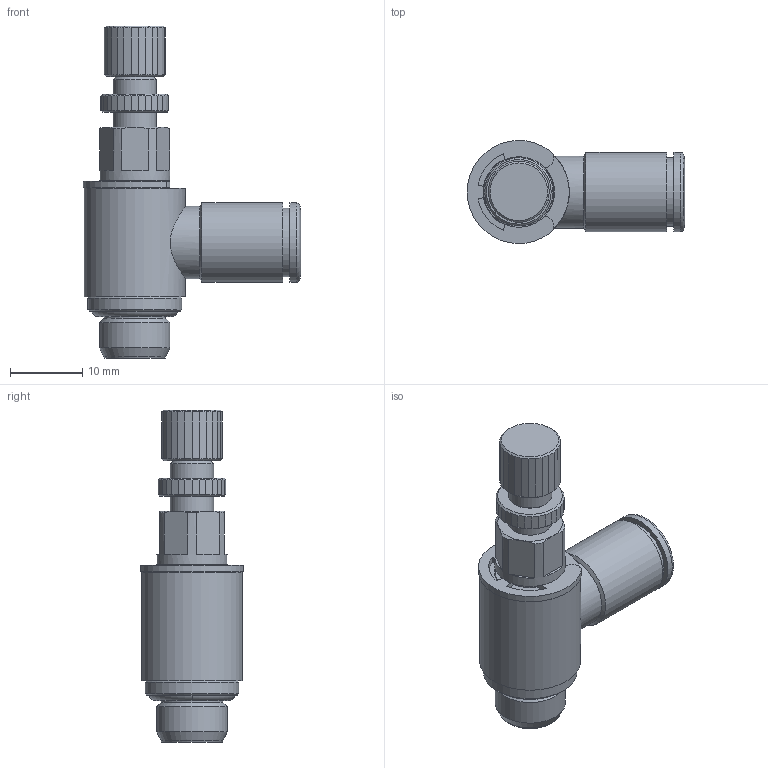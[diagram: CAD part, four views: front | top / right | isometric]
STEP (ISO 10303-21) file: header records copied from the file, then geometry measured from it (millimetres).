
FILE_DESCRIPTION(('Bauteilbeschreibung','HiCAD-Model','HiCAD-STEP-TRANSLATION','Bauteilbeschreibung'),'2;1');
FILE_NAME('B:/ABGLEICH/ZEICHNUNGEN/STEP FÜR INTERNET/STEP/IPSO 046/204605_IPSO_046_6_1-8_B.STP','2012-10-16T14:56:49+00:00',('Konstrukteur'),('Konstrukteur Firma GmbH'),' HiCAD neXt 2008, Step 3.1.1401.2J ','HiCAD neXt 2008','confidential');
FILE_SCHEMA(('AUTOMOTIVE_DESIGN { 1 2 10303 214 0 1 1 1 }'));
Length unit declared in the file: millimetre
Products named in the file (16): A04605_IPSO_046_6_1_8_B; C54B02X; C54B02X0; DIN 13_M6X0_75; A00052; A04001_3; C53B020X; C53B020X0; OR 7_2X1_9; DIN0130M6X0075; G 1_8; C50B025X; C50B025X0; DIN0130M6X00750; DR6_1_NEU; R201205_N
Assembly tree (15 placements, depth 3):
  A04605_IPSO_046_6_1_8_B
    C54B02X
    C54B02X0
      DIN 13_M6X0_75
    A00052
    A04001_3
    C53B020X
    C53B020X0
      OR 7_2X1_9
      DIN0130M6X0075
      G 1_8
    C50B025X
    C50B025X0
      DIN0130M6X00750
    DR6_1_NEU
    R201205_N
Bounding box: 30.15 x 14.29 x 46 mm (x, y, z)
Volume: 4618.2 mm3; surface area: 7429.1 mm2
Topology: 12 solids, 12 shells, 204 faces, 477 edges, 304 vertices
Faces by surface type: plane 106, cylinder 48, cone 43, torus 7
Full cylindrical faces by diameter (mm): 3 x1, 4 x1, 5 x1, 5.08 x4, 5.1 x1, 5.6 x1, 6 x6, 6.1 x1, 6.2 x1, 6.414 x1, 6.5 x1, 7 x2, 7.5 x2, 7.6 x1, 8.3 x1, 8.5 x1, 8.566 x2, 9 x1, 9.5 x1, 9.6 x1, 9.728 x1, 9.75 x2, 9.9 x1, 10 x1, 11 x2, 13 x1, 14 x1
Entity records: 8674 total; most frequent: CARTESIAN_POINT 2476, DIRECTION 858, ORIENTED_EDGE 746, AXIS2_PLACEMENT_3D 379, COLOUR_RGB 373, EDGE_CURVE 373, PRESENTATION_STYLE_ASSIGNMENT 373, CURVE_STYLE 361
